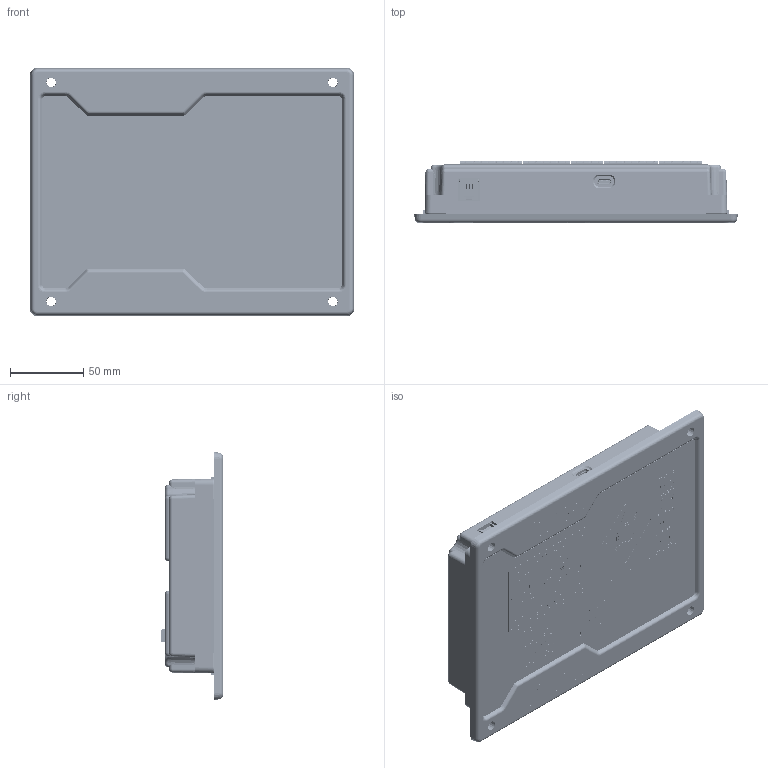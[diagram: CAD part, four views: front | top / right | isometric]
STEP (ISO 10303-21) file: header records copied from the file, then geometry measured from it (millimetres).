
FILE_DESCRIPTION(/* description */ ('CAx-IF Rec.Pracs.---Representation and Presentation of Product Manufacturing Information (PMI)---4.0---2014-10-13','CAx-IF Rec.Pracs.---3D Tessellated Geometry---0.4---2014-09-14','2;1'),/* implementation_level */ '2;1');
FILE_NAME(/* name */ 'KVA_K60XS',/* time_stamp */ '2026-04-16T14:53:02-03:00',/* author */ ('Rodrigo Xavier'),/* organization */ ('KVA'),/* preprocessor_version */ 'ST-DEVELOPER v20',/* originating_system */ 'Solid Edge',/* authorisation */ 'Unknown');
FILE_SCHEMA (('AP242_MANAGED_MODEL_BASED_3D_ENGINEERING_MIM_LF { 1 0 10303 442 1 1 4 }'));
Products named in the file (33): K60XS; Borne2viasM; B1; V02; EtiquetaKVA; AdesivoFrontalK60XS; Gabinete_Traseiro_60; Gabinete_Frontal_K60XS; EtiquetaK60XS; K60E32-bornes2; Board; RS232; RJ11-WE-HOR-TAB-UP; USB1; usb-c-2171790001; Open CASCADE STEP translator 6.8 1.3.1.1; Open CASCADE STEP translator 6.8 1.3.1.2; B9; V04; mstbva_2.5-4-g-5.08; B7; V07; mstbva_2.5-7-g-5.08; B6; 7MV; B4; V06; mstbva_2.5-6-g-5.08; B3; copy1; V03; mstbva_2.5-3-g-5.08
Assembly tree (34 placements, depth 5):
  K60XS
    Borne2viasM
      B1
        V02
    EtiquetaKVA
    AdesivoFrontalK60XS
    Gabinete_Traseiro_60
    Gabinete_Frontal_K60XS
    EtiquetaK60XS
    K60E32-bornes2
      Board
      RS232
        RJ11-WE-HOR-TAB-UP
      USB1
        usb-c-2171790001
          Open CASCADE STEP translator 6.8 1.3.1.1
          Open CASCADE STEP translator 6.8 1.3.1.2
      B9
        V04
          mstbva_2.5-4-g-5.08
      B7
        V07
          mstbva_2.5-7-g-5.08
      B6
        7MV
      B4
        V06
          mstbva_2.5-6-g-5.08
      B3
        copy1
      B1
        V03
          mstbva_2.5-3-g-5.08
      copy1
      Borne2viasM
        B1
          V02
Bounding box: 222 x 42.11 x 170 mm (x, y, z)
Volume: 231189.8 mm3; surface area: 301272.5 mm2
Topology: 407 solids, 407 shells, 10290 faces, 25684 edges, 16835 vertices
Faces by surface type: plane 7889, cylinder 1036, bspline 995, cone 200, sphere 146, torus 24
Full cylindrical faces by diameter (mm): 0.404 x5, 0.412 x5, 0.488 x1, 0.57 x1, 0.889 x6, 1.27 x2, 1.5 x30, 2.184 x2, 2.5 x7, 3.5 x4, 4 x3, 5.387 x1, 12.53 x4, 12.6 x4, 13.127 x1, 13.305 x4, 13.6 x4, 14.003 x1
Entity records: 378010 total; most frequent: CARTESIAN_POINT 108149, ORIENTED_EDGE 48182, DIRECTION 42148, EDGE_CURVE 24091, LINE 19080, VECTOR 19080, VERTEX_POINT 15913, AXIS2_PLACEMENT_3D 11534
